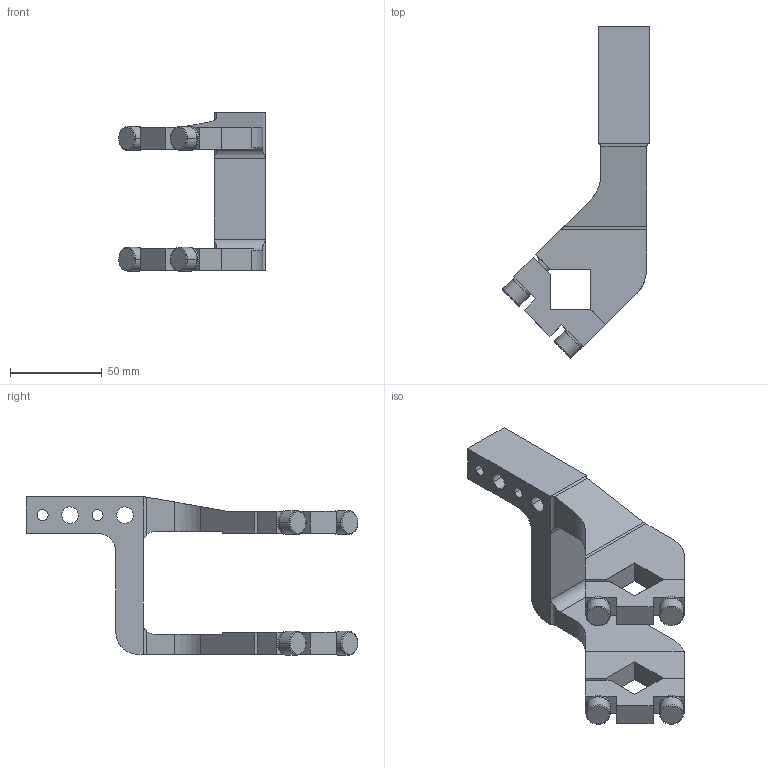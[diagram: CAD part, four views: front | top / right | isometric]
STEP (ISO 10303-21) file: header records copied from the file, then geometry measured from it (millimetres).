
FILE_DESCRIPTION(('CATIA V5 STEP Exchange'),'2;1');
FILE_NAME('E:\clampact\CLAMPACT\clampact\catalog\Clampact Arm\Arm 3D\Clampact Arm\arm_K63_15_A12_Clampact.stp','2022-12-06T08:04:47+00:00',('none'),('none'),'CATIA Version 5 Release 19 SP 6 (IN-10)','CATIA V5 STEP AP203','none');
FILE_SCHEMA(('CONFIG_CONTROL_DESIGN'));
Length unit declared in the file: millimetre
Products named in the file (1): K63_15_A12_Clampact_柯莱普
Bounding box: 80.22 x 181.22 x 86.5 mm (x, y, z)
Volume: 160345 mm3; surface area: 43468.5 mm2
Topology: 1 solids, 5 shells, 176 faces, 448 edges, 282 vertices
Faces by surface type: plane 90, cylinder 54, cone 20, torus 12
Entity records: 5047 total; most frequent: CARTESIAN_POINT 1096, ORIENTED_EDGE 880, DIRECTION 642, EDGE_CURVE 440, VERTEX_POINT 282, VECTOR 266, LINE 266, AXIS2_PLACEMENT_3D 257
